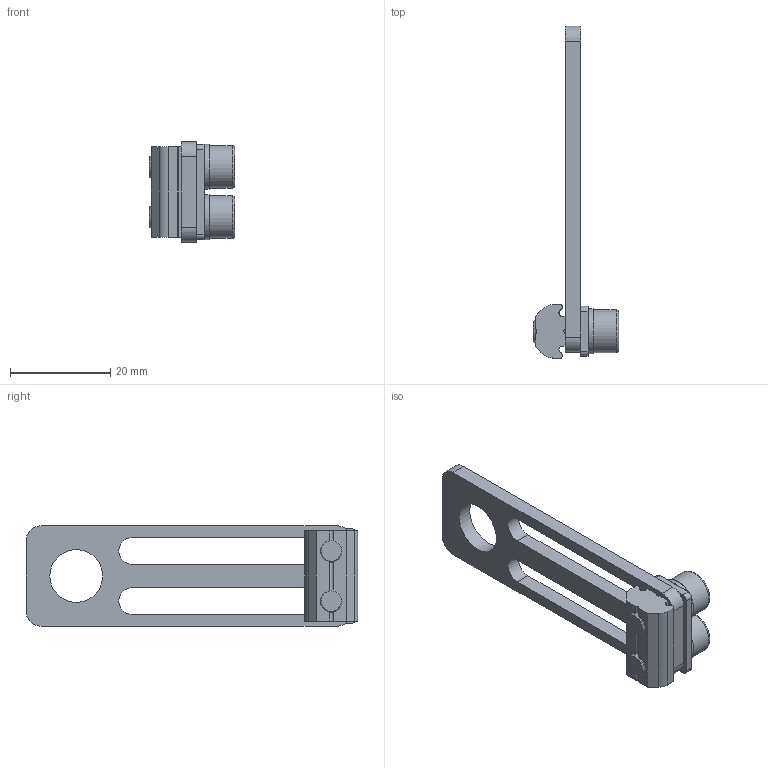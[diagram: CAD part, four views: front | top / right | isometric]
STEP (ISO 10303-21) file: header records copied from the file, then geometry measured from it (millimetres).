
FILE_DESCRIPTION(('STEP AP214'),'1');
FILE_NAME('CA.04.20.10.X.stp','2017-06-06T12:32:37',(' '),(' '),'Spatial InterOp 3D',' ',' ');
FILE_SCHEMA(('automotive_design'));
Length unit declared in the file: millimetre
Products named in the file (7): V-tcei M  5 x 12; CA.GWP.5.10; R.05.10; R.5.SCH; CA.04.20.10; 04.20.10
Assembly tree (8 placements, depth 3):
  (unnamed)
    V-tcei M  5 x 12  x2
    CA.GWP.5.10
    R.05.10
    R.5.SCH  x2
    CA.04.20.10
      04.20.10
Bounding box: 17 x 66.15 x 20 mm (x, y, z)
Volume: 4253 mm3; surface area: 4998.2 mm2
Topology: 5 solids, 7 shells, 476 faces, 1388 edges, 920 vertices
Faces by surface type: plane 433, cylinder 37, torus 4, cone 2
Full cylindrical faces by diameter (mm): 4.134 x2, 5 x2, 5.3 x4, 8.5 x2, 9 x2, 10.5 x1
Entity records: 11167 total; most frequent: CARTESIAN_POINT 1620, DIRECTION 1559, ORIENTED_EDGE 1520, EDGE_CURVE 760, AXIS2_PLACEMENT_3D 530, VERTEX_POINT 511, LINE 499, VECTOR 499
